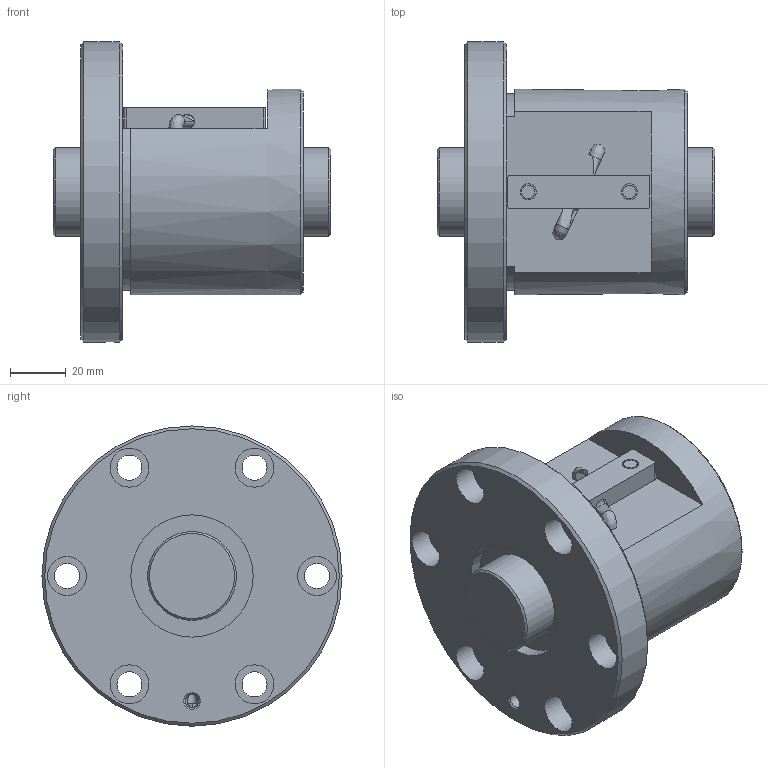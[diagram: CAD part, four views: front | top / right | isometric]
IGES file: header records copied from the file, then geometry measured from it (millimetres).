
Start section: Data from Parasolid IGES Translator 26.0.171, Copyright(c) 2006 Siemens PLM Software. All Rights Reserved.
Global section: file name: BNF3210V-3.5RRG1+100LC0_000_rev.igs; native system: By Siemens PLM Incorporated; preprocessor: XPlus GENERIC/IGES 26.0.171; author: Noname; organization: Noname; date: 20240806.083742; units: millimetre
Bounding box: 100 x 108 x 108 mm (x, y, z)
Surface area: 61998.5 mm2 (no closed solid volume)
Topology: 0 solids, 0 shells, 71 faces, 310 edges, 268 vertices
Faces by surface type: revolution 44, extrusion 27
